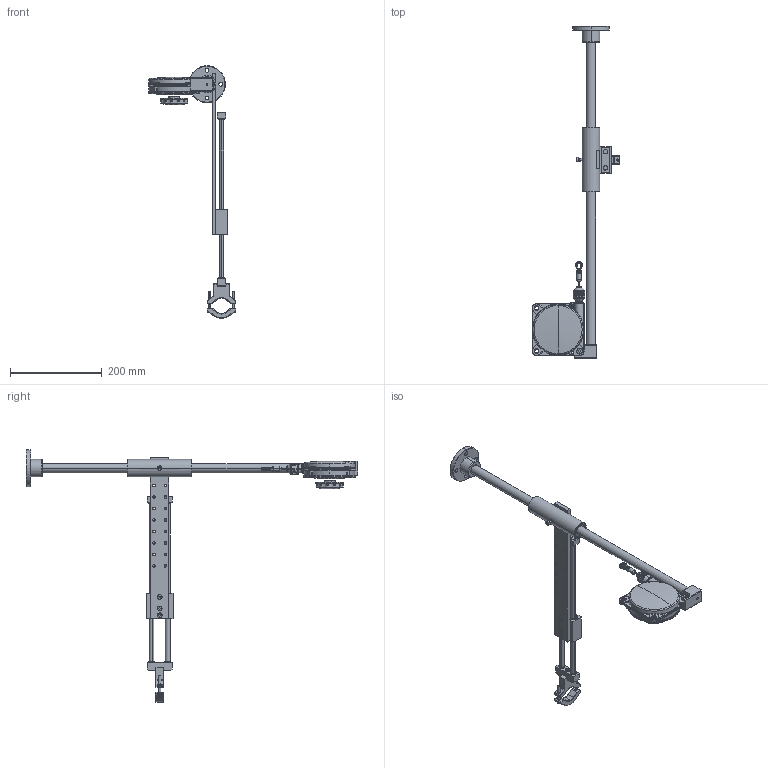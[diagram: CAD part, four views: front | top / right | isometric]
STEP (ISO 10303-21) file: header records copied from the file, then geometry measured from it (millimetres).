
FILE_DESCRIPTION (( 'STEP AP214' ), '1' );
FILE_NAME ('Braccio lineare 010681.STEP', '2022-07-04T07:04:11', ( '' ), ( '' ), 'SwSTEP 2.0', 'SolidWorks 2021', '' );
FILE_SCHEMA (( 'AUTOMOTIVE_DESIGN' ));
Length unit declared in the file: millimetre
Products named in the file (1): Braccio lineare 010681
Bounding box: 191.34 x 722 x 548.94 mm (x, y, z)
Surface area: 237774.5 mm2 (no closed solid volume)
Topology: 0 solids, 114 shells, 1046 faces, 3658 edges, 2640 vertices
Faces by surface type: plane 300, cylinder 234, cone 199, torus 170, bspline 110, sphere 33
Entity records: 61194 total; most frequent: CARTESIAN_POINT 19821, DIRECTION 6225, ORIENTED_EDGE 5535, EDGE_CURVE 3656, VERTEX_POINT 2640, AXIS2_PLACEMENT_3D 2553, CIRCLE 1616, EDGE_LOOP 1226
